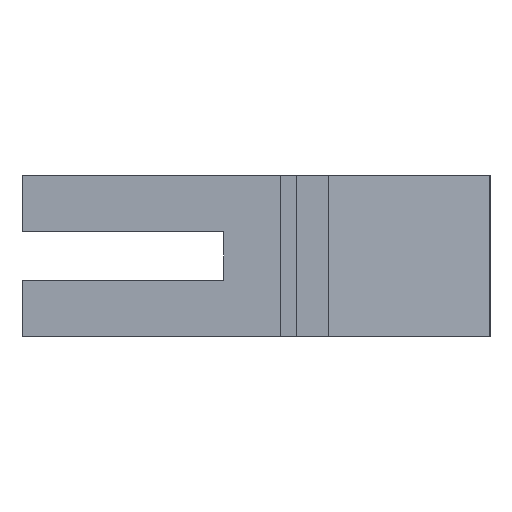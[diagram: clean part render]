
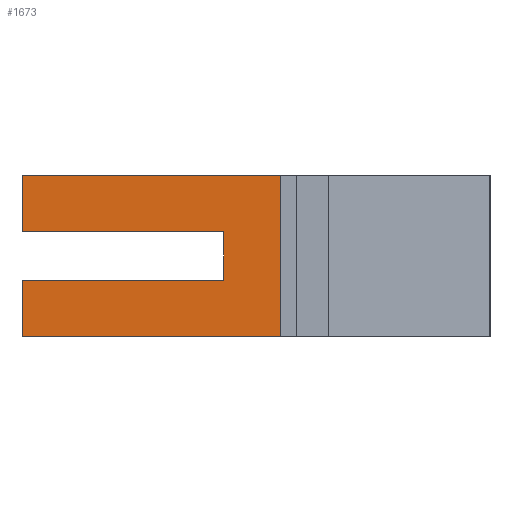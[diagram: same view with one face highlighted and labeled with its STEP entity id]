
A CAD part, left-side view. The second image highlights one B-rep face of the part: STEP entity #1673.
In plain terms, the highlighted planar face has unit normal (-1, 0, 0).
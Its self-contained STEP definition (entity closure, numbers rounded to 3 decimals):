
#20 = LINE ( 'NONE', #573, #329 ) ;
#27 = ORIENTED_EDGE ( 'NONE', *, *, #459, .F. ) ;
#40 = VECTOR ( 'NONE', #1520, 1000. ) ;
#62 = VECTOR ( 'NONE', #842, 1000. ) ;
#83 = CARTESIAN_POINT ( 'NONE',  ( -55., 51., 10. ) ) ;
#93 = VERTEX_POINT ( 'NONE', #1244 ) ;
#107 = DIRECTION ( 'NONE',  ( 1., 0., 0. ) ) ;
#118 = VERTEX_POINT ( 'NONE', #623 ) ;
#141 = ORIENTED_EDGE ( 'NONE', *, *, #814, .F. ) ;
#183 = LINE ( 'NONE', #443, #62 ) ;
#199 = DIRECTION ( 'NONE',  ( 0., -1., 0. ) ) ;
#250 = CARTESIAN_POINT ( 'NONE',  ( -55., 26., -3. ) ) ;
#280 = CARTESIAN_POINT ( 'NONE',  ( -55., 51., -10. ) ) ;
#308 = LINE ( 'NONE', #999, #371 ) ;
#321 = CARTESIAN_POINT ( 'NONE',  ( -55., 51., -3. ) ) ;
#329 = VECTOR ( 'NONE', #718, 1000. ) ;
#337 = EDGE_CURVE ( 'NONE', #118, #1320, #1057, .T. ) ;
#338 = ORIENTED_EDGE ( 'NONE', *, *, #1492, .F. ) ;
#371 = VECTOR ( 'NONE', #199, 1000. ) ;
#387 = EDGE_LOOP ( 'NONE', ( #27, #141, #679, #1704, #872, #338, #1580, #1316 ) ) ;
#394 = EDGE_CURVE ( 'NONE', #93, #530, #886, .T. ) ;
#412 = CARTESIAN_POINT ( 'NONE',  ( -55., 51., 3. ) ) ;
#442 = EDGE_CURVE ( 'NONE', #1003, #565, #1033, .T. ) ;
#443 = CARTESIAN_POINT ( 'NONE',  ( -55., 51., 10. ) ) ;
#459 = EDGE_CURVE ( 'NONE', #800, #1003, #1388, .T. ) ;
#517 = DIRECTION ( 'NONE',  ( 0., 1., 0. ) ) ;
#523 = PLANE ( 'NONE',  #753 ) ;
#530 = VERTEX_POINT ( 'NONE', #280 ) ;
#565 = VERTEX_POINT ( 'NONE', #412 ) ;
#573 = CARTESIAN_POINT ( 'NONE',  ( -55., 51., -10. ) ) ;
#590 = VECTOR ( 'NONE', #1705, 1000. ) ;
#623 = CARTESIAN_POINT ( 'NONE',  ( -55., 19., 10. ) ) ;
#631 = CARTESIAN_POINT ( 'NONE',  ( -55., 51., 10. ) ) ;
#652 = CARTESIAN_POINT ( 'NONE',  ( -55., 51., 10. ) ) ;
#666 = DIRECTION ( 'NONE',  ( 0., 0., -1. ) ) ;
#670 = DIRECTION ( 'NONE',  ( 0., 0., -1. ) ) ;
#679 = ORIENTED_EDGE ( 'NONE', *, *, #394, .T. ) ;
#684 = VECTOR ( 'NONE', #517, 1000. ) ;
#685 = EDGE_CURVE ( 'NONE', #835, #565, #183, .T. ) ;
#702 = EDGE_CURVE ( 'NONE', #530, #1320, #20, .T. ) ;
#718 = DIRECTION ( 'NONE',  ( 0., -1., 0. ) ) ;
#750 = CARTESIAN_POINT ( 'NONE',  ( -55., 26., 3. ) ) ;
#753 = AXIS2_PLACEMENT_3D ( 'NONE', #631, #107, #1428 ) ;
#800 = VERTEX_POINT ( 'NONE', #851 ) ;
#814 = EDGE_CURVE ( 'NONE', #93, #800, #1066, .T. ) ;
#835 = VERTEX_POINT ( 'NONE', #83 ) ;
#842 = DIRECTION ( 'NONE',  ( 0., 0., -1. ) ) ;
#851 = CARTESIAN_POINT ( 'NONE',  ( -55., 26., -3. ) ) ;
#872 = ORIENTED_EDGE ( 'NONE', *, *, #337, .F. ) ;
#886 = LINE ( 'NONE', #652, #911 ) ;
#911 = VECTOR ( 'NONE', #666, 1000. ) ;
#999 = CARTESIAN_POINT ( 'NONE',  ( -55., 51., 10. ) ) ;
#1003 = VERTEX_POINT ( 'NONE', #750 ) ;
#1033 = LINE ( 'NONE', #1572, #684 ) ;
#1057 = LINE ( 'NONE', #1179, #1417 ) ;
#1066 = LINE ( 'NONE', #321, #40 ) ;
#1110 = CARTESIAN_POINT ( 'NONE',  ( -55., 19., -10. ) ) ;
#1121 = FACE_OUTER_BOUND ( 'NONE', #387, .T. ) ;
#1179 = CARTESIAN_POINT ( 'NONE',  ( -55., 19., 10. ) ) ;
#1244 = CARTESIAN_POINT ( 'NONE',  ( -55., 51., -3. ) ) ;
#1316 = ORIENTED_EDGE ( 'NONE', *, *, #442, .F. ) ;
#1320 = VERTEX_POINT ( 'NONE', #1110 ) ;
#1388 = LINE ( 'NONE', #250, #590 ) ;
#1417 = VECTOR ( 'NONE', #670, 1000. ) ;
#1428 = DIRECTION ( 'NONE',  ( 0., 0., -1. ) ) ;
#1492 = EDGE_CURVE ( 'NONE', #835, #118, #308, .T. ) ;
#1520 = DIRECTION ( 'NONE',  ( 0., -1., 0. ) ) ;
#1572 = CARTESIAN_POINT ( 'NONE',  ( -55., 51., 3. ) ) ;
#1580 = ORIENTED_EDGE ( 'NONE', *, *, #685, .T. ) ;
#1673 = ADVANCED_FACE ( 'NONE', ( #1121 ), #523, .F. ) ;
#1704 = ORIENTED_EDGE ( 'NONE', *, *, #702, .T. ) ;
#1705 = DIRECTION ( 'NONE',  ( 0., 0., 1. ) ) ;
